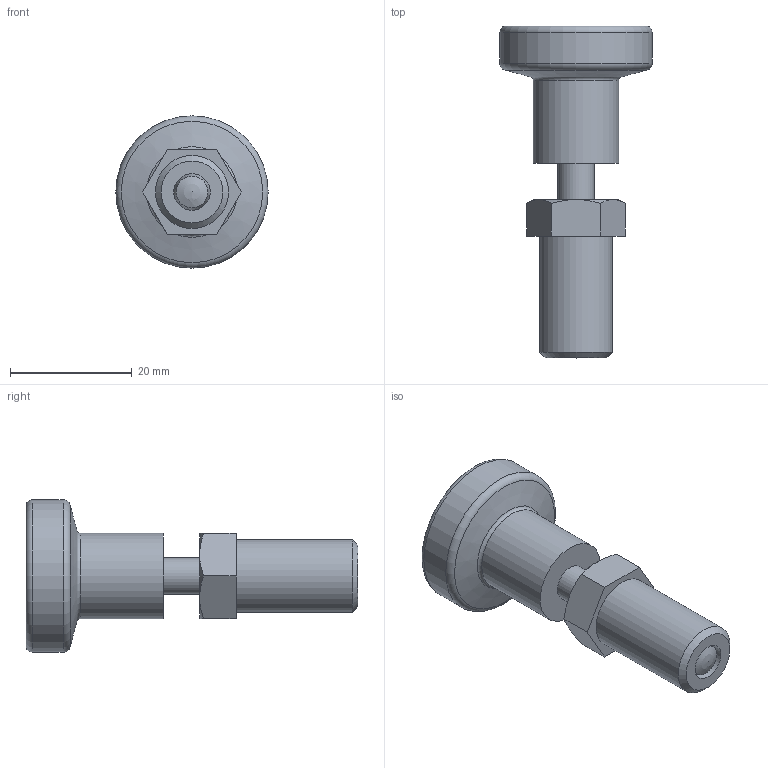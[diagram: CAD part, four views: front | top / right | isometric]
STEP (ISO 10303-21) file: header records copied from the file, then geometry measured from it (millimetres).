
FILE_DESCRIPTION( ( 'STEP AP203' ), '1' );
FILE_NAME( 'C:/Temp/Ganter_Step_05_03_2020/data/3_1/gn617_n/gn617n_a/Stainless Steel Indexing plunger GN 617-6-A-NI (activated).stp', '2020-03-12T08:42:56', ( 'License CC BY-ND 4.0' ), ( 'CADENAS' ), ' ', 'PARTsolutions', ' ' );
FILE_SCHEMA( ( 'CONFIG_CONTROL_DESIGN' ) );
Length unit declared in the file: millimetre
Products named in the file (3): Stainless Steel Indexing plunger GN 617-6-A-NI (activated); _Stainless Steel-Indexing plunger GN 617-6-A-NI -2; _Indexing plunger GN 617-6-A-NI (1)-1
Assembly tree (2 placements, depth 2):
  Stainless Steel Indexing plunger GN 617-6-A-NI (activated)
    _Stainless Steel-Indexing plunger GN 617-6-A-NI -2
    _Indexing plunger GN 617-6-A-NI (1)-1
Bounding box: 25 x 54.5 x 25 mm (x, y, z)
Volume: 9026.9 mm3; surface area: 4803.4 mm2
Topology: 2 solids, 2 shells, 38 faces, 74 edges, 45 vertices
Faces by surface type: plane 15, cone 9, cylinder 9, torus 3, bspline 1, sphere 1
Full cylindrical faces by diameter (mm): 6 x4, 10 x2, 12 x1, 13.99 x1, 25 x1
Entity records: 1039 total; most frequent: CARTESIAN_POINT 234, DIRECTION 152, ORIENTED_EDGE 108, AXIS2_PLACEMENT_3D 70, EDGE_LOOP 62, EDGE_CURVE 54, FACE_OUTER_BOUND 50, VERTEX_POINT 44
